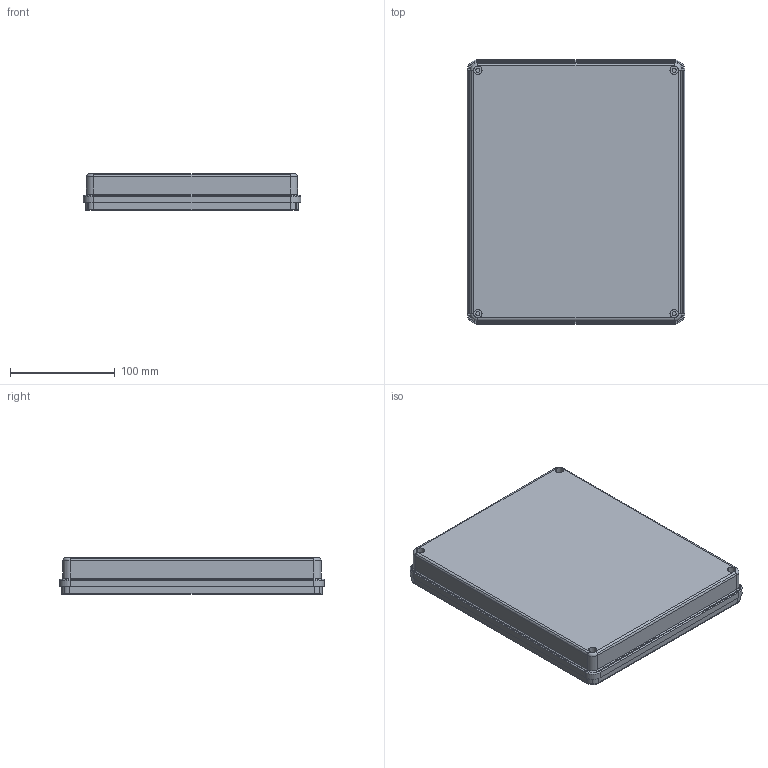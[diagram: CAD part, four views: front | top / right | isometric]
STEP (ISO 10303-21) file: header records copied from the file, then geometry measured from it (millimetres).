
FILE_DESCRIPTION(('STEP AP214'),'1');
FILE_NAME('D:/CSTmws/Panel4x1C.stp','2017-07-21T04:34:21',('Evgeny'),(' '),'Spatial InterOp 3D','CST ACIS InterOp Converter 2009',' ');
FILE_SCHEMA(('automotive_design'));
Length unit declared in the file: millimetre
Products named in the file (17): component1|solid1; component1|solid2; component1|solid3; component1|solid4; 1; 2; 3; 4; 5; 6; 7; 8; component1|solid2_1; component1|solid2_2; component1|solid2_3; default|import_1; 9
Bounding box: 207 x 252 x 35 mm (x, y, z)
Volume: 259685.5 mm3; surface area: 301061 mm2
Topology: 16 solids, 16 shells, 221 faces, 489 edges, 309 vertices
Faces by surface type: cylinder 110, plane 91, torus 20
Entity records: 8312 total; most frequent: DIRECTION 1206, CARTESIAN_POINT 1035, ORIENTED_EDGE 976, EDGE_CURVE 488, AXIS2_PLACEMENT_3D 479, VERTEX_POINT 308, LINE 248, VECTOR 248
